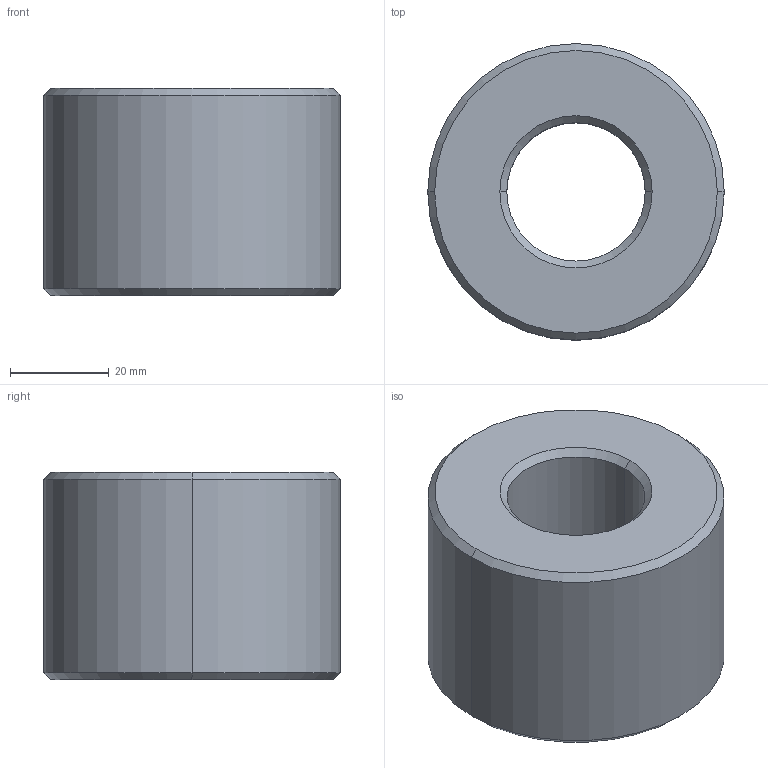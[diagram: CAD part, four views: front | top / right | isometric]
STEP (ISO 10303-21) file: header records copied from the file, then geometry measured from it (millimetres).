
FILE_DESCRIPTION (( 'STEP AP203' ), '1' );
FILE_NAME ('L1339.R28-10.step', '2024-10-24T14:11:03', ( '' ), ( '' ), 'SwSTEP 2.0', 'SolidWorks 2019', '' );
FILE_SCHEMA (( 'CONFIG_CONTROL_DESIGN' ));
Length unit declared in the file: millimetre
Products named in the file (1): L1339.R28-10
Bounding box: 60 x 60 x 42 mm (x, y, z)
Volume: 92348.7 mm3; surface area: 15581.2 mm2
Topology: 1 solids, 1 shells, 14 faces, 28 edges, 16 vertices
Faces by surface type: cone 8, cylinder 4, plane 2
Entity records: 445 total; most frequent: DIRECTION 74, CARTESIAN_POINT 59, ORIENTED_EDGE 56, AXIS2_PLACEMENT_3D 31, EDGE_CURVE 28, CIRCLE 16, EDGE_LOOP 16, VERTEX_POINT 16
